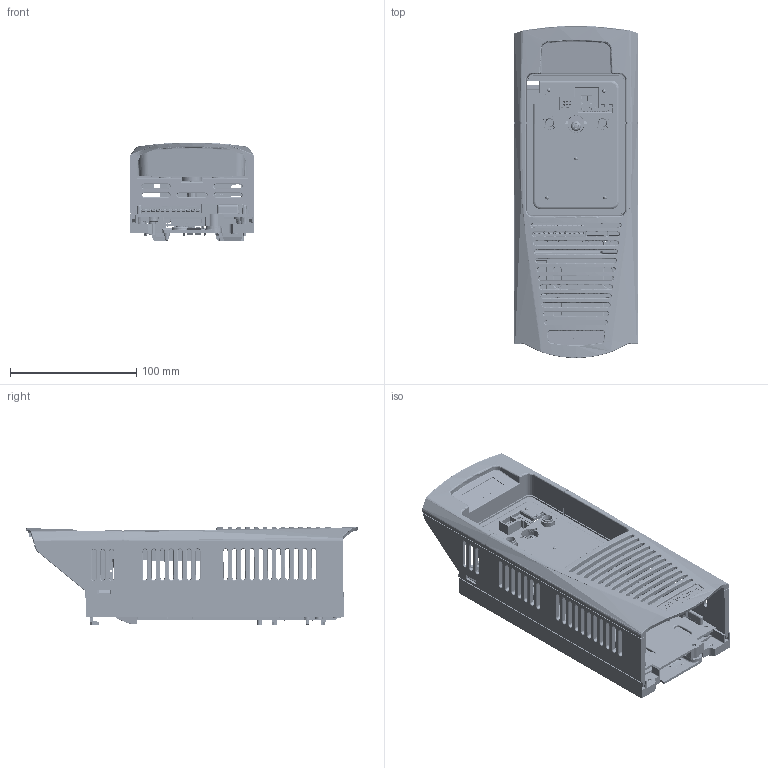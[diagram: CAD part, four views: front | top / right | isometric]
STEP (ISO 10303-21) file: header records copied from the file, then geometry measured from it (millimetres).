
FILE_DESCRIPTION(/* description */ ('hsng_cst_fr_mchd'),/* implementation_level */ '2;1');
FILE_NAME(/* name */ 'C:\Users\sc084691\Desktop\vcms\AC30 P.stp',/* time_stamp */ '2016-04-27T15:41:38+01:00',/* author */ ('sc084691'),/* organization */ (''),/* preprocessor_version */ 'ST-DEVELOPER v15.2',/* originating_system */ 'Autodesk Inventor 2014',/* authorisation */ '');
FILE_SCHEMA (('CONFIG_CONTROL_DESIGN'));
Products named in the file (17): hsng_cst_fr_mchd_BE502894_7; cvr_fr_upr; BD501376U000v18_CVR_FR_LWR_QUALIFICATION; scr_ppn_m4_20_ucut6; trm_gnd_spr_clip; pcb_assy_vcm_ctrl_p_AH502874U001_21Dec15; lbl_adsv_AC30_4410_GA501858_3; lbl_adsv_34l_Parker_blk_GA501912U001_2; lbl_adsv_x12_x13_GA502737U001_2_1; lbl_adsv_x10_x11_GA502737U001_1_1; wshr_crkl_m4; lbl_adsv_ctrl_trm; scr_ppn_m4_30; pcb_sd_gkp_adpt_ac30_AH503397_18Mar16; BB501373v26a_hsng_cst_bk; scr_tpn_m4t_10; assy_pdct_ac30p
Bounding box: 99.04 x 263.48 x 78.49 mm (x, y, z)
Volume: 290134.5 mm3; surface area: 304337.9 mm2
Topology: 45 solids, 252 shells, 18743 faces, 52789 edges, 34041 vertices
Faces by surface type: plane 12751, cylinder 3389, bspline 1862, cone 310, torus 241, sphere 190
Full cylindrical faces by diameter (mm): 0.8 x2, 0.889 x6, 1 x52, 1.1 x90, 1.27 x4, 1.32 x1, 1.5 x2, 1.524 x2, 1.75 x2, 2 x1, 2.7 x1, 3.2 x2, 3.3 x1, 3.346 x1, 3.45 x1, 3.492 x1, 3.5 x34, 3.571 x1, 3.7 x8, 3.9 x7, 4 x4, 4.3 x1, 4.5 x2, 4.8 x1, 5.9 x1, 7 x1, 8 x4, 8.1 x1, 9.1 x1
Entity records: 721985 total; most frequent: CARTESIAN_POINT 229405, ORIENTED_EDGE 103320, DIRECTION 92396, EDGE_CURVE 51960, LINE 39934, VECTOR 39934, VERTEX_POINT 33743, AXIS2_PLACEMENT_3D 26231
